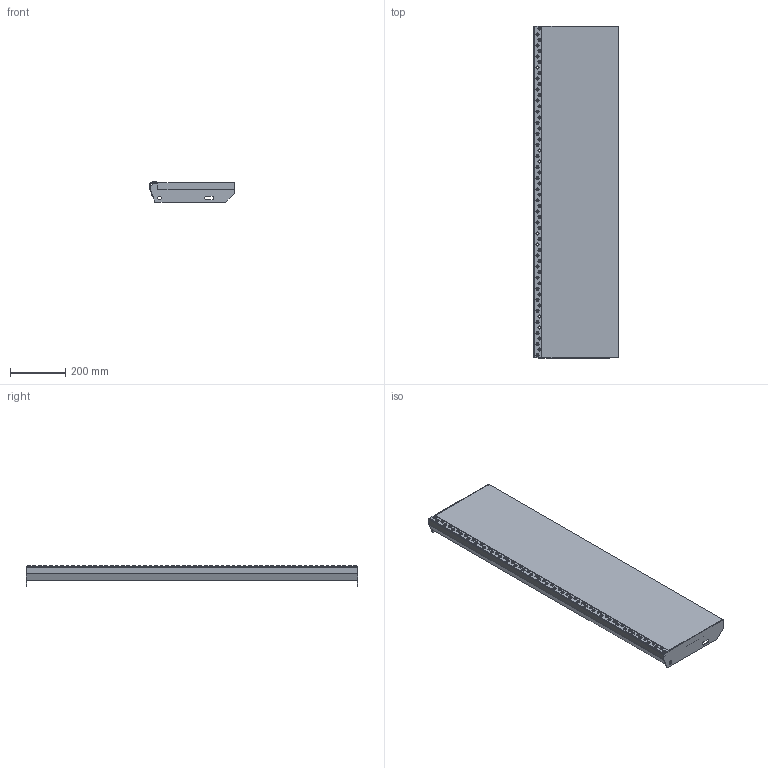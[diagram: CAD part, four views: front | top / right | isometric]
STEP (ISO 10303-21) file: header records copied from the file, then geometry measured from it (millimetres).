
FILE_DESCRIPTION(('Open CASCADE Model'),'2;1');
FILE_NAME('Open CASCADE Shape Model','2019-03-13T10:02:12',('Author'),( 'Open CASCADE'),'Open CASCADE STEP processor 7.2','Open CASCADE 7.2' ,'Unknown');
FILE_SCHEMA(('AUTOMOTIVE_DESIGN { 1 0 10303 214 1 1 1 1 }'));
Length unit declared in the file: millimetre
Products named in the file (1880): Open CASCADE STEP translator 7.2 1; Open CASCADE STEP translator 7.2 2; Open CASCADE STEP translator 7.2 3; Open CASCADE STEP translator 7.2 3.1; Open CASCADE STEP translator 7.2 3.2; Open CASCADE STEP translator 7.2 3.3; Open CASCADE STEP translator 7.2 3.4; Open CASCADE STEP translator 7.2 3.5; Open CASCADE STEP translator 7.2 3.6; Open CASCADE STEP translator 7.2 3.7; Open CASCADE STEP translator 7.2 3.8; Open CASCADE STEP translator 7.2 3.9; Open CASCADE STEP translator 7.2 3.10; Open CASCADE STEP translator 7.2 3.11; Open CASCADE STEP translator 7.2 3.12; Open CASCADE STEP translator 7.2 3.13; Open CASCADE STEP translator 7.2 3.14; Open CASCADE STEP translator 7.2 3.15; Open CASCADE STEP translator 7.2 3.16; Open CASCADE STEP translator 7.2 3.17; Open CASCADE STEP translator 7.2 3.18; Open CASCADE STEP translator 7.2 3.19; Open CASCADE STEP translator 7.2 3.20; Open CASCADE STEP translator 7.2 3.21; Open CASCADE STEP translator 7.2 3.22; Open CASCADE STEP translator 7.2 3.23; Open CASCADE STEP translator 7.2 3.24; Open CASCADE STEP translator 7.2 3.25; Open CASCADE STEP translator 7.2 3.26; Open CASCADE STEP translator 7.2 3.27; Open CASCADE STEP translator 7.2 3.28; Open CASCADE STEP translator 7.2 3.29; Open CASCADE STEP translator 7.2 3.30; Open CASCADE STEP translator 7.2 3.31; Open CASCADE STEP translator 7.2 3.32; Open CASCADE STEP translator 7.2 3.33; Open CASCADE STEP translator 7.2 3.34; Open CASCADE STEP translator 7.2 3.35; Open CASCADE STEP translator 7.2 3.36; Open CASCADE STEP translator 7.2 3.37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
Assembly tree (1876 placements, depth 2):
  Open CASCADE STEP translator 7.2 1
  Open CASCADE STEP translator 7.2 2
  Open CASCADE STEP translator 7.2 3
    Open CASCADE STEP translator 7.2 3.1
    Open CASCADE STEP translator 7.2 3.2
    Open CASCADE STEP translator 7.2 3.3
    Open CASCADE STEP translator 7.2 3.4
    Open CASCADE STEP translator 7.2 3.5
    Open CASCADE STEP translator 7.2 3.6
    Open CASCADE STEP translator 7.2 3.7
    Open CASCADE STEP translator 7.2 3.8
    Open CASCADE STEP translator 7.2 3.9
    Open CASCADE STEP translator 7.2 3.10
    Open CASCADE STEP translator 7.2 3.11
    Open CASCADE STEP translator 7.2 3.12
    Open CASCADE STEP translator 7.2 3.13
    Open CASCADE STEP translator 7.2 3.14
    Open CASCADE STEP translator 7.2 3.15
    Open CASCADE STEP translator 7.2 3.16
    Open CASCADE STEP translator 7.2 3.17
    Open CASCADE STEP translator 7.2 3.18
    Open CASCADE STEP translator 7.2 3.19
    Open CASCADE STEP translator 7.2 3.20
    Open CASCADE STEP translator 7.2 3.21
    Open CASCADE STEP translator 7.2 3.22
    Open CASCADE STEP translator 7.2 3.23
    Open CASCADE STEP translator 7.2 3.24
    Open CASCADE STEP translator 7.2 3.25
    Open CASCADE STEP translator 7.2 3.26
    Open CASCADE STEP translator 7.2 3.27
    Open CASCADE STEP translator 7.2 3.28
    Open CASCADE STEP translator 7.2 3.29
    Open CASCADE STEP translator 7.2 3.30
    Open CASCADE STEP translator 7.2 3.31
    Open CASCADE STEP translator 7.2 3.32
    Open CASCADE STEP translator 7.2 3.33
    Open CASCADE STEP translator 7.2 3.34
    Open CASCADE STEP translator 7.2 3.35
    Open CASCADE STEP translator 7.2 3.36
    Open CASCADE STEP translator 7.2 3.37
    Open CASCADE STEP translator 7.2 3.38
    Open CASCADE STEP translator 7.2 3.39
    Open CASCADE STEP translator 7.2 3.40
    Open CASCADE STEP translator 7.2 3.41
    Open CASCADE STEP translator 7.2 3.42
    Open CASCADE STEP translator 7.2 3.43
    Open CASCADE STEP translator 7.2 3.44
    Open CASCADE STEP translator 7.2 3.45
    Open CASCADE STEP translator 7.2 3.46
    Open CASCADE STEP translator 7.2 3.47
    Open CASCADE STEP translator 7.2 3.48
    Open CASCADE STEP translator 7.2 3.49
    Open CASCADE STEP translator 7.2 3.50
    Open CASCADE STEP translator 7.2 3.51
    Open CASCADE STEP translator 7.2 3.52
    Open CASCADE STEP translator 7.2 3.53
    Open CASCADE STEP translator 7.2 3.54
    Open CASCADE STEP translator 7.2 3.55
    Open CASCADE STEP translator 7.2 3.56
    Open CASCADE STEP translator 7.2 3.57
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Bounding box: 305 x 1200 x 73 mm (x, y, z)
Volume: 8342031.2 mm3; surface area: 1008698.3 mm2
Topology: 3 solids, 1879 shells, 1914 faces, 10260 edges, 10228 vertices
Faces by surface type: plane 1908, cylinder 6
Full cylindrical faces by diameter (mm): 13 x2
Entity records: 208032 total; most frequent: CARTESIAN_POINT 34731, DIRECTION 28174, LINE 20568, VECTOR 20568, ORIENTED_EDGE 10356, PCURVE 10356, DEFINITIONAL_REPRESENTATION 10356, EDGE_CURVE 10260
